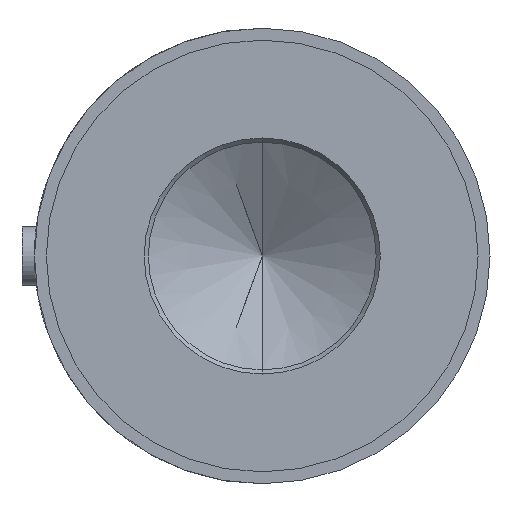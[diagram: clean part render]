
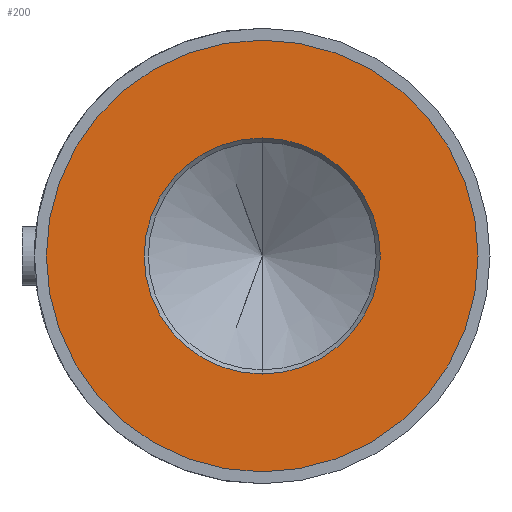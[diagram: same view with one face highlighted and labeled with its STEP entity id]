
A CAD part, front view. The second image highlights one B-rep face of the part: STEP entity #200.
In plain terms, the highlighted planar face has unit normal (0, -1, 0).
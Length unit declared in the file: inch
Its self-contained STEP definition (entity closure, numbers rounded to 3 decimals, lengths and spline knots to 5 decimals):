
#35 = ORIENTED_EDGE ( 'NONE', *, *, #1230, .F. ) ;
#41 = ORIENTED_EDGE ( 'NONE', *, *, #1262, .F. ) ;
#46 = ORIENTED_EDGE ( 'NONE', *, *, #1257, .F. ) ;
#47 = ORIENTED_EDGE ( 'NONE', *, *, #1315, .F. ) ;
#200 = ADVANCED_FACE ( 'NONE', ( #437, #457 ), #641, .F. ) ;
#232 = AXIS2_PLACEMENT_3D ( 'NONE', #993, #982, #1008 ) ;
#233 = AXIS2_PLACEMENT_3D ( 'NONE', #1018, #998, #991 ) ;
#272 = CIRCLE ( 'NONE', #467, 1.1846 ) ;
#281 = CIRCLE ( 'NONE', #232, 0.6479 ) ;
#304 = CIRCLE ( 'NONE', #233, 1.1846 ) ;
#335 = CIRCLE ( 'NONE', #1348, 0.6479 ) ;
#410 = EDGE_LOOP ( 'NONE', ( #35, #41 ) ) ;
#437 = FACE_BOUND ( 'NONE', #537, .T. ) ;
#457 = FACE_OUTER_BOUND ( 'NONE', #410, .T. ) ;
#467 = AXIS2_PLACEMENT_3D ( 'NONE', #889, #890, #896 ) ;
#537 = EDGE_LOOP ( 'NONE', ( #47, #46 ) ) ;
#557 = VERTEX_POINT ( 'NONE', #725 ) ;
#562 = VERTEX_POINT ( 'NONE', #822 ) ;
#608 = VERTEX_POINT ( 'NONE', #797 ) ;
#622 = VERTEX_POINT ( 'NONE', #809 ) ;
#641 = PLANE ( 'NONE',  #1300 ) ;
#652 = DIRECTION ( 'NONE',  ( 0., 1., 0. ) ) ;
#653 = DIRECTION ( 'NONE',  ( 0., 0., 1. ) ) ;
#654 = CARTESIAN_POINT ( 'NONE',  ( 0., 0., 0. ) ) ;
#725 = CARTESIAN_POINT ( 'NONE',  ( 0., 0., -1.1846 ) ) ;
#797 = CARTESIAN_POINT ( 'NONE',  ( 0., 0., 0.6479 ) ) ;
#809 = CARTESIAN_POINT ( 'NONE',  ( 0., 0., -0.6479 ) ) ;
#822 = CARTESIAN_POINT ( 'NONE',  ( 0., 0., 1.1846 ) ) ;
#889 = CARTESIAN_POINT ( 'NONE',  ( 0., 0., 0. ) ) ;
#890 = DIRECTION ( 'NONE',  ( 0., 1., 0. ) ) ;
#896 = DIRECTION ( 'NONE',  ( 0., 0., 1. ) ) ;
#982 = DIRECTION ( 'NONE',  ( 0., -1., 0. ) ) ;
#991 = DIRECTION ( 'NONE',  ( 0., 0., 1. ) ) ;
#993 = CARTESIAN_POINT ( 'NONE',  ( 0., 0., 0. ) ) ;
#998 = DIRECTION ( 'NONE',  ( 0., 1., 0. ) ) ;
#1008 = DIRECTION ( 'NONE',  ( 0., 0., -1. ) ) ;
#1018 = CARTESIAN_POINT ( 'NONE',  ( 0., 0., 0. ) ) ;
#1177 = CARTESIAN_POINT ( 'NONE',  ( 0., 0., 0. ) ) ;
#1186 = DIRECTION ( 'NONE',  ( 0., -1., 0. ) ) ;
#1187 = DIRECTION ( 'NONE',  ( 0., 0., -1. ) ) ;
#1230 = EDGE_CURVE ( 'NONE', #557, #562, #272, .T. ) ;
#1257 = EDGE_CURVE ( 'NONE', #608, #622, #281, .T. ) ;
#1262 = EDGE_CURVE ( 'NONE', #562, #557, #304, .T. ) ;
#1300 = AXIS2_PLACEMENT_3D ( 'NONE', #654, #652, #653 ) ;
#1315 = EDGE_CURVE ( 'NONE', #622, #608, #335, .T. ) ;
#1348 = AXIS2_PLACEMENT_3D ( 'NONE', #1177, #1186, #1187 ) ;
